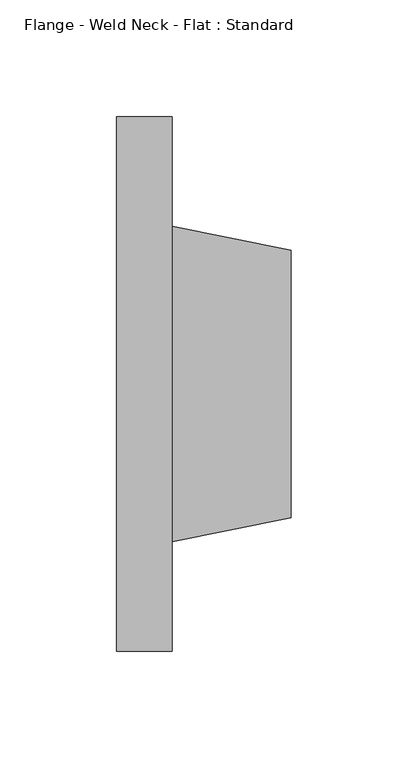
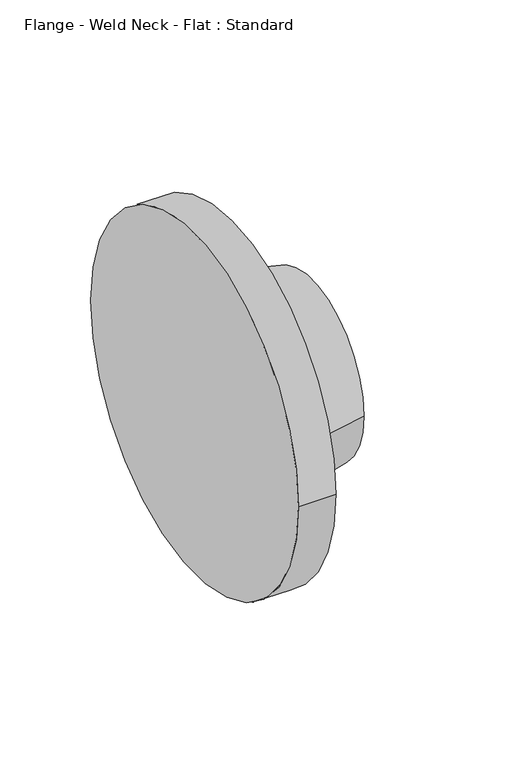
"""IFC4 building model written with IfcOpenShell, lengths in millimetres: valve geometry, Flange - Weld Neck - Flat : Standard."""

from ifc_helpers import new_model, si_unit, frame, origin, place, context, project, spatial, polyline, circle_curve, source, transform, mapped, element, save
from ifc_brep_helpers import plane_surface, cylinder_surface, revolved_surface, advanced_brep


def flange_weld_neck_flat_standard_0d644390(model_context):
    return source(origin(), model_context, "Body", "AdvancedBrep", [
        advanced_brep(
        [(1.5875, -114.3, 0.0), (1.5875, 114.3, 0.0), (25.4, -114.3, 0.0), (25.4, 114.3, 0.0), (25.4, 67.46875, 0.0), (25.4, -67.46875, 0.0), (76.2, -57.15, 0.0), (76.2, 57.15, 0.0)],
        [
            (0, 1, circle_curve(frame((1.5875, 0.0, 0.0), z_axis=(-1.0, 0.0, 0.0), x_axis=(0.0, 1.0, 0.0)), 114.3)),
            (1, 0, circle_curve(frame((1.5875, 0.0, 0.0), z_axis=(-1.0, 0.0, 0.0), x_axis=(0.0, 1.0, 0.0)), 114.3)),
            (2, 3, circle_curve(frame((25.4, 0.0, 0.0), z_axis=(1.0, 0.0, 0.0), x_axis=(0.0, 1.0, 0.0)), 114.3)),
            (3, 2, circle_curve(frame((25.4, 0.0, 0.0), z_axis=(1.0, 0.0, 0.0), x_axis=(0.0, 1.0, 0.0)), 114.3)),
            (4, 5, circle_curve(frame((25.4, 0.0, 0.0), z_axis=(-1.0, 0.0, 0.0), x_axis=(0.0, -1.0, 0.0)), 67.46875)),
            (5, 4, circle_curve(frame((25.4, 0.0, 0.0), z_axis=(-1.0, 0.0, 0.0), x_axis=(0.0, 1.0, 0.0)), 67.46875)),
            (0, 2),
            (3, 1),
            (6, 7, circle_curve(frame((76.2, 0.0, 0.0), z_axis=(1.0, 0.0, 0.0), x_axis=(0.0, -1.0, 0.0)), 57.15)),
            (7, 6, circle_curve(frame((76.2, 0.0, 0.0), z_axis=(1.0, 0.0, 0.0), x_axis=(0.0, 1.0, 0.0)), 57.15)),
            (6, 5),
            (4, 7),
        ],
        [
            plane_surface(frame((1.5875, 0.0, 0.0), z_axis=(-1.0, 0.0, 0.0), x_axis=(0.0, 0.0, 1.0))),
            plane_surface(frame((25.4, 0.0, 0.0), z_axis=(1.0, 0.0, 0.0), x_axis=(0.0, 0.0, 1.0))),
            cylinder_surface(frame((1.5875, 0.0, 0.0), z_axis=(-1.0, 0.0, 0.0), x_axis=(0.0, 1.0, 0.0)), 114.3),
            plane_surface(frame((76.2, 0.0, 0.0), z_axis=(1.0, 0.0, 0.0), x_axis=(0.0, 0.0, -1.0))),
            revolved_surface(polyline([(76.19999999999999, -57.150000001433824, 0.0), (25.399999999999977, -67.46875, 0.0)]), (357.5538462, 0.0, 0.0), (-1.0, 0.0, 0.0)),
            revolved_surface(polyline([(76.19999999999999, 57.150000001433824, 0.0), (25.399999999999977, 67.46875, 0.0)]), (357.5538462, 0.0, 0.0), (-1.0, 0.0, 0.0)),
        ],
        [
            (0, [[1, 2]]),
            (1, [[3, 4], [5, 6]]),
            (2, [[-1, 7, -4, 8]]),
            (2, [[-2, -8, -3, -7]]),
            (3, [[9, 10]]),
            (4, [[-9, 11, -5, 12]]),
            (5, [[-10, -12, -6, -11]]),
        ],
    ),
    ])


if __name__ == "__main__":
    model = new_model("IFC4")
    model_context = context("Model", 3, world=origin())
    ifc_project = project(units=[si_unit("LENGTHUNIT", "METRE", prefix="MILLI")], contexts=[model_context])
    site = spatial("IfcSite", under=ifc_project)
    building = spatial("IfcBuilding", under=site)
    placement = place(None, origin())
    flange_weld_neck_flat_standard_shape = flange_weld_neck_flat_standard_0d644390(model_context)
    element("IfcValve", 1, ObjectType="Flange - Weld Neck - Flat : Standard", at=placement, inside=building, context=model_context, shape_type="MappedRepresentation", body=[
        mapped(flange_weld_neck_flat_standard_shape, transform((0.0, 0.0, 0.0), x_axis=(1.0, 0.0, 0.0), y_axis=(0.0, 1.0, 0.0), z_axis=(0.0, 0.0, 1.0))),
    ])
    save(model, "model.ifc")
